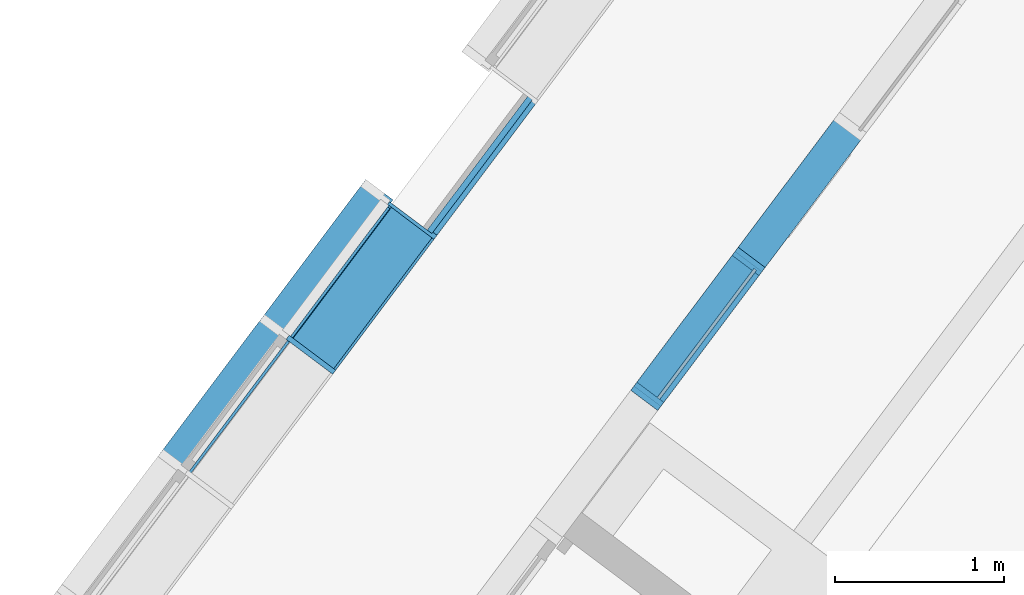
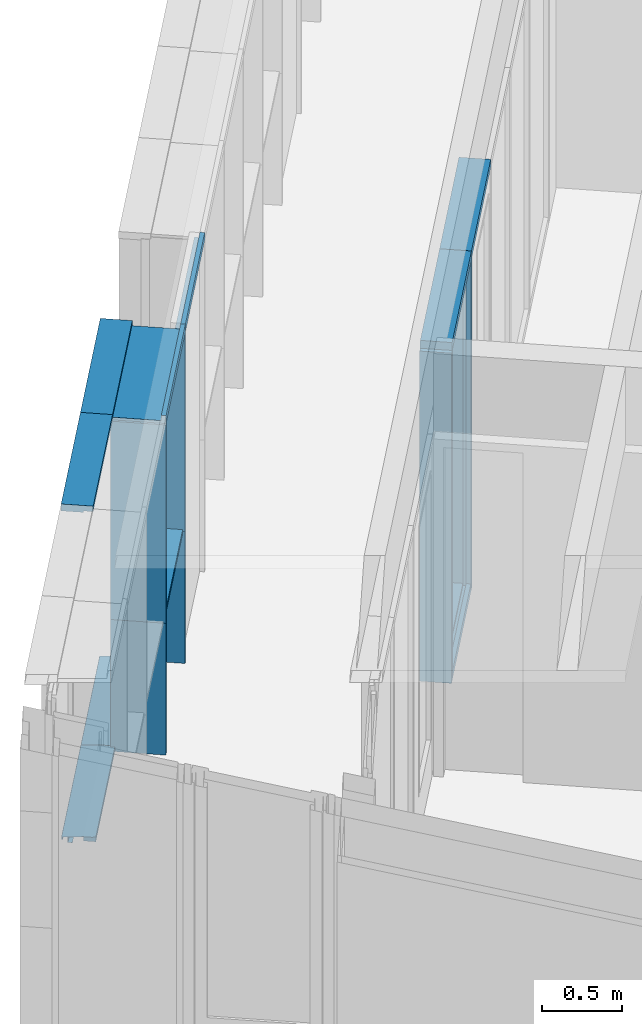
# One storey, part 38 of 243: 16 members, 3 elements without a shape of their own.
"""IFC2X3 building model written with IfcOpenShell, lengths in metres."""

from ifc_helpers import new_model, entity, si_unit, converted_unit, derived_unit, direction, frame, frame_2d, origin, place, context, subcontext, project, spatial, polyline, circle_curve, parameter, trimmed, segment, composite_curve, rectangle, outline, extrude, source, transform, mapped, material, type_object, type_shapes, element, aggregate, save


model = new_model("IFC2X3")

# Units and contexts
model_context = context("Model", 3, precision=1e-05, world=origin(), true_north=direction((6.123031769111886e-17, 1.0)))
body_context = subcontext(model_context, "Body", "Model", "MODEL_VIEW")
ifc_project = project(units=[si_unit("LENGTHUNIT", "METRE"), si_unit("AREAUNIT", "SQUARE_METRE"), si_unit("VOLUMEUNIT", "CUBIC_METRE"), converted_unit("PLANEANGLEUNIT", "DEGREE", entity("IfcRatioMeasure", 0.017453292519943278), si_unit("PLANEANGLEUNIT", "RADIAN"), dimensions=[0, 0, 0, 0, 0, 0, 0]), si_unit("MASSUNIT", "GRAM", prefix="KILO"), derived_unit("MASSDENSITYUNIT", [(si_unit("MASSUNIT", "GRAM", prefix="KILO"), 1), (si_unit("LENGTHUNIT", "METRE"), -3)]), derived_unit("IONCONCENTRATIONUNIT", [(si_unit("MASSUNIT", "GRAM", prefix="KILO"), 1), (si_unit("LENGTHUNIT", "METRE"), -3)]), derived_unit("MOMENTOFINERTIAUNIT", [(si_unit("LENGTHUNIT", "METRE"), 4)]), si_unit("TIMEUNIT", "SECOND"), si_unit("FREQUENCYUNIT", "HERTZ"), si_unit("THERMODYNAMICTEMPERATUREUNIT", "DEGREE_CELSIUS"), derived_unit("THERMALTRANSMITTANCEUNIT", [(si_unit("MASSUNIT", "GRAM", prefix="KILO"), 1), (si_unit("THERMODYNAMICTEMPERATUREUNIT", "KELVIN"), -1), (si_unit("TIMEUNIT", "SECOND"), -3)]), derived_unit("THERMALCONDUCTANCEUNIT", [(si_unit("MASSUNIT", "GRAM", prefix="KILO"), 1), (si_unit("THERMODYNAMICTEMPERATUREUNIT", "KELVIN"), -1), (si_unit("TIMEUNIT", "SECOND"), -3), (si_unit("LENGTHUNIT", "METRE"), 1)]), derived_unit("VOLUMETRICFLOWRATEUNIT", [(si_unit("LENGTHUNIT", "METRE"), 3), (si_unit("TIMEUNIT", "SECOND"), -1)]), derived_unit("MASSFLOWRATEUNIT", [(si_unit("MASSUNIT", "GRAM", prefix="KILO"), 1), (si_unit("TIMEUNIT", "SECOND"), -1)]), derived_unit("ROTATIONALFREQUENCYUNIT", [(si_unit("TIMEUNIT", "SECOND"), -1)]), si_unit("ELECTRICCURRENTUNIT", "AMPERE"), si_unit("ELECTRICVOLTAGEUNIT", "VOLT"), si_unit("POWERUNIT", "WATT"), si_unit("FORCEUNIT", "NEWTON", prefix="KILO"), si_unit("ILLUMINANCEUNIT", "LUX"), si_unit("LUMINOUSFLUXUNIT", "LUMEN"), si_unit("LUMINOUSINTENSITYUNIT", "CANDELA"), derived_unit("USERDEFINED", [(si_unit("MASSUNIT", "GRAM", prefix="KILO"), -1), (si_unit("LENGTHUNIT", "METRE"), -2), (si_unit("TIMEUNIT", "SECOND"), 3), (si_unit("LUMINOUSFLUXUNIT", "LUMEN"), 1)]), derived_unit("USERDEFINED", [(si_unit("MASSUNIT", "GRAM", prefix="KILO"), 1), (si_unit("TIMEUNIT", "SECOND"), -3), (si_unit("LENGTHUNIT", "METRE"), 3), (si_unit("ELECTRICCURRENTUNIT", "AMPERE"), -2)]), derived_unit("SOUNDPOWERUNIT", [(si_unit("MASSUNIT", "GRAM", prefix="KILO"), 1), (si_unit("TIMEUNIT", "SECOND"), -3), (si_unit("LENGTHUNIT", "METRE"), 2)]), derived_unit("SOUNDPRESSUREUNIT", [(si_unit("MASSUNIT", "GRAM", prefix="KILO"), 1), (si_unit("LENGTHUNIT", "METRE"), -1), (si_unit("TIMEUNIT", "SECOND"), -2)]), derived_unit("LINEARVELOCITYUNIT", [(si_unit("LENGTHUNIT", "METRE"), 1), (si_unit("TIMEUNIT", "SECOND"), -1)]), si_unit("PRESSUREUNIT", "PASCAL"), derived_unit("USERDEFINED", [(si_unit("MASSUNIT", "GRAM", prefix="KILO"), 1), (si_unit("LENGTHUNIT", "METRE"), -2), (si_unit("TIMEUNIT", "SECOND"), -2)]), derived_unit("LINEARFORCEUNIT", [(si_unit("MASSUNIT", "GRAM", prefix="KILO"), 1), (si_unit("TIMEUNIT", "SECOND"), -2)]), derived_unit("PLANARFORCEUNIT", [(si_unit("MASSUNIT", "GRAM", prefix="KILO"), 1), (si_unit("LENGTHUNIT", "METRE"), -1), (si_unit("TIMEUNIT", "SECOND"), -2)]), derived_unit("SPECIFICHEATCAPACITYUNIT", [(si_unit("THERMODYNAMICTEMPERATUREUNIT", "KELVIN"), -1), (si_unit("LENGTHUNIT", "METRE"), 2), (si_unit("TIMEUNIT", "SECOND"), -2)]), derived_unit("HEATINGVALUEUNIT", [(si_unit("LENGTHUNIT", "METRE"), 2), (si_unit("TIMEUNIT", "SECOND"), -2)]), derived_unit("VAPORPERMEABILITYUNIT", [(si_unit("LENGTHUNIT", "METRE"), -1), (si_unit("TIMEUNIT", "SECOND"), 1)]), derived_unit("DYNAMICVISCOSITYUNIT", [(si_unit("MASSUNIT", "GRAM", prefix="KILO"), 1), (si_unit("TIMEUNIT", "SECOND"), -1), (si_unit("LENGTHUNIT", "METRE"), -1)]), derived_unit("THERMALEXPANSIONCOEFFICIENTUNIT", [(si_unit("THERMODYNAMICTEMPERATUREUNIT", "KELVIN"), -1)]), derived_unit("MODULUSOFELASTICITYUNIT", [(si_unit("MASSUNIT", "GRAM", prefix="KILO"), 1), (si_unit("LENGTHUNIT", "METRE"), -1), (si_unit("TIMEUNIT", "SECOND"), -2)]), derived_unit("ISOTHERMALMOISTURECAPACITYUNIT", [(si_unit("LENGTHUNIT", "METRE"), 3), (si_unit("MASSUNIT", "GRAM", prefix="KILO"), -1)]), derived_unit("MOISTUREDIFFUSIVITYUNIT", [(si_unit("TIMEUNIT", "SECOND"), -1), (si_unit("LENGTHUNIT", "METRE"), 2)])], contexts=[model_context])

# Site, building, storey
site_placement = place(None, frame((0.0, 0.0, 235.0), z_axis=(0.0, 0.0, 1.0), x_axis=(-0.7996477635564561, 0.6004693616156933, 0.0)))
site = spatial("IfcSite", under=ifc_project, at=site_placement, Name="Default", CompositionType="ELEMENT")
building_placement = place(site_placement, origin())
building = spatial("IfcBuilding", under=site, at=building_placement, CompositionType="ELEMENT")
storey_placement = place(building_placement, origin())
storey = spatial("IfcBuildingStorey", under=building, at=storey_placement, Name="P0- Escola", CompositionType="ELEMENT", Elevation=0.0)

# Curtain wall, members
curtain_wall_type_1 = type_object("IfcCurtainWallType", Name="Muro cortina:MC- INT- a1", PredefinedType="NOTDEFINED")
curtain_wall_1_placement = place(storey_placement, origin())
curtain_wall_1 = element("IfcCurtainWall", 1, at=curtain_wall_1_placement, inside=storey, type_object=curtain_wall_type_1, Name="Muro cortina:MC- INT- a1", ObjectType="Muro cortina:MC- INT- a1")
ifc_material_1 = material(Name="_Fusta massisa- T1")
member_type_1 = type_object("IfcMemberType", Name="Montante rectangular:MC- Fusta- 20x6 cm- Esquerra", PredefinedType="MULLION", material=ifc_material_1)
shared_shape_1 = source(origin(), body_context, "Body", "SweptSolid", [
    extrude(outline(polyline([(-0.07000000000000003, -0.01875000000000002), (-0.04000000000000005, -0.01875000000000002), (-0.04000000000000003, -0.0037500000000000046), (-0.020000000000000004, -0.0037500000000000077), (-0.02, -0.018750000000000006), (0.13, -0.018749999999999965), (0.12999999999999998, 0.04125000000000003), (-0.06999999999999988, 0.04124999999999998), (-0.07000000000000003, -0.01875000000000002)])), frame((-0.041249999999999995, -0.03, -1.0), z_axis=(0.0, 0.0, 1.0), x_axis=(0.0, -1.0, 0.0)), (0.0, 0.0, 1.0), 0.9999999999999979),
])
type_shapes(member_type_1, [shared_shape_1])
member_1_placement = place(curtain_wall_1_placement, frame((72.720147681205, -26.415189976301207, 2.565), z_axis=(0.0, -1.0, 0.0), x_axis=(0.0, 0.0, 1.0)))
member_1 = element("IfcMember", 2, at=member_1_placement, type_object=member_type_1, material=ifc_material_1, Name="Montante rectangular:MC- Fusta- 20x6 cm- Esquerra", ObjectType="Montante rectangular:MC- Fusta- 20x6 cm- Esquerra", context=body_context, shape_type="MappedRepresentation", body=[
    mapped(shared_shape_1, transform((0.0, 0.0, 0.0), scale=1.0)),
])
member_type_2 = type_object("IfcMemberType", Name="Montante rectangular:MC- Fusta- 20x6 cm- Esquerra", PredefinedType="MULLION", material=ifc_material_1)
shared_shape_2 = source(origin(), body_context, "Body", "SweptSolid", [
    extrude(outline(polyline([(-0.07000000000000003, -0.01875000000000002), (-0.04000000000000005, -0.01875000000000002), (-0.04000000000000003, -0.0037500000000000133), (-0.020000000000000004, -0.0037500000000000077), (-0.02, -0.018750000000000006), (0.13, -0.018749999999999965), (0.12999999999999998, 0.04125000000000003), (-0.06999999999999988, 0.04124999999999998), (-0.07000000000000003, -0.01875000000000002)])), frame((-0.01124999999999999, -0.03, -2.5050000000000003), z_axis=(0.0, 0.0, 1.0), x_axis=(0.0, -1.0, 0.0)), (0.0, 0.0, 1.0), 2.5050000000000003),
])
type_shapes(member_type_2, [shared_shape_2])
member_2_placement = place(curtain_wall_1_placement, frame((72.720147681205, -25.41518997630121, 0.0), z_axis=(0.0, 0.0, -1.0), x_axis=(0.0, -1.0, 0.0)))
member_2 = element("IfcMember", 3, at=member_2_placement, type_object=member_type_2, material=ifc_material_1, Name="Montante rectangular:MC- Fusta- 20x6 cm- Esquerra", ObjectType="Montante rectangular:MC- Fusta- 20x6 cm- Esquerra", context=body_context, shape_type="MappedRepresentation", body=[
    mapped(shared_shape_2, transform((0.0, 0.0, 0.0), scale=1.0)),
])
member_type_3 = type_object("IfcMemberType", Name="Montante rectangular:MC- Fusta- 20x6 cm- Neutre", PredefinedType="MULLION", material=ifc_material_1)
shared_shape_3 = source(origin(), body_context, "Body", "SweptSolid", [
    extrude(rectangle(XDim=0.2, YDim=0.060000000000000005, at=frame_2d((-4.85722573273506e-17, -3.469446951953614e-18), x_axis=(1.0, 0.0))), frame((-0.03, -0.060000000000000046, -1.0), z_axis=(0.0, 0.0, 1.0), x_axis=(0.0, -1.0, 0.0)), (0.0, 0.0, 1.0), 0.9999999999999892),
])
type_shapes(member_type_3, [shared_shape_3])
member_3_placement = place(curtain_wall_1_placement, frame((72.720147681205, -25.41518997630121, 2.565), z_axis=(0.0, -1.0, 0.0), x_axis=(0.0, 0.0, 1.0)))
member_3 = element("IfcMember", 4, at=member_3_placement, type_object=member_type_3, material=ifc_material_1, Name="Montante rectangular:MC- Fusta- 20x6 cm- Neutre", ObjectType="Montante rectangular:MC- Fusta- 20x6 cm- Neutre", context=body_context, shape_type="MappedRepresentation", body=[
    mapped(shared_shape_3, transform((0.0, 0.0, 0.0), scale=1.0)),
])
member_type_4 = type_object("IfcMemberType", Name="Montante rectangular:MC- Fusta- 20x6 cm- Neutre", PredefinedType="MULLION", material=ifc_material_1)
shared_shape_4 = source(origin(), body_context, "Body", "SweptSolid", [
    extrude(rectangle(XDim=0.2, YDim=0.06, at=frame_2d((-4.85722573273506e-17, 0.0), x_axis=(1.0, 0.0))), frame((0.0, -0.060000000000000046, -2.5050000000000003), z_axis=(0.0, 0.0, 1.0), x_axis=(0.0, -1.0, 0.0)), (0.0, 0.0, 1.0), 2.5050000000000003),
])
type_shapes(member_type_4, [shared_shape_4])
member_4_placement = place(curtain_wall_1_placement, frame((72.720147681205, -24.41518997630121, 0.0), z_axis=(0.0, 0.0, -1.0), x_axis=(0.0, -1.0, 0.0)))
member_4 = element("IfcMember", 5, at=member_4_placement, type_object=member_type_4, material=ifc_material_1, Name="Montante rectangular:MC- Fusta- 20x6 cm- Neutre", ObjectType="Montante rectangular:MC- Fusta- 20x6 cm- Neutre", context=body_context, shape_type="MappedRepresentation", body=[
    mapped(shared_shape_4, transform((0.0, 0.0, 0.0), scale=1.0)),
])
member_type_5 = type_object("IfcMemberType", Name="Montante rectangular:MC- Fusta- 20x6 cm- Inferior", PredefinedType="MULLION", material=ifc_material_1)
shared_shape_5 = source(origin(), body_context, "Body", "SweptSolid", [
    extrude(outline(polyline([(-0.06999999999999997, -0.018750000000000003), (-0.039999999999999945, -0.018750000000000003), (-0.03999999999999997, -0.003750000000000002), (-0.019999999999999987, -0.0037500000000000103), (-0.019999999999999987, -0.018750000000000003), (0.13000000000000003, -0.018750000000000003), (0.13000000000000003, 0.041249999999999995), (-0.07000000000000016, 0.041249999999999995), (-0.06999999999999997, -0.018750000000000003)])), frame((-0.041249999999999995, -0.02999999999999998, -0.9399999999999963), z_axis=(0.0, 0.0, 1.0), x_axis=(0.0, -1.0, 0.0)), (0.0, 0.0, 1.0), 0.9399999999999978),
])
type_shapes(member_type_5, [shared_shape_5])
member_5_placement = place(curtain_wall_1_placement, frame((72.720147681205, -24.44518997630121, 0.0), z_axis=(0.0, 1.0, 0.0), x_axis=(0.0, 0.0, -1.0)))
member_5 = element("IfcMember", 6, at=member_5_placement, type_object=member_type_5, material=ifc_material_1, Name="Montante rectangular:MC- Fusta- 20x6 cm- Inferior", ObjectType="Montante rectangular:MC- Fusta- 20x6 cm- Inferior", context=body_context, shape_type="MappedRepresentation", body=[
    mapped(shared_shape_5, transform((0.0, 0.0, 0.0), scale=1.0)),
])
aggregate(curtain_wall_1, [member_1, member_3, member_2, member_4, member_5])

curtain_wall_type_2 = type_object("IfcCurtainWallType", Name="Muro cortina:MC- INT- k2", PredefinedType="NOTDEFINED")
curtain_wall_2_placement = place(storey_placement, origin())
curtain_wall_2 = element("IfcCurtainWall", 7, at=curtain_wall_2_placement, inside=storey, type_object=curtain_wall_type_2, Name="Muro cortina:MC- INT- k2", ObjectType="Muro cortina:MC- INT- k2")
member_type_6 = type_object("IfcMemberType", Name="Montante rectangular:MC- Fusta- 35x3 cm- Centre", PredefinedType="MULLION", material=ifc_material_1)
shared_shape_6 = source(origin(), body_context, "Body", "SweptSolid", [
    extrude(rectangle(XDim=0.3450000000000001, YDim=0.030000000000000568, at=frame_2d((0.0, -1.3964523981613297e-16), x_axis=(1.0, 0.0))), frame((0.0, -0.07750000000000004, -1.0), z_axis=(0.0, 0.0, 1.0), x_axis=(0.0, -1.0, 0.0)), (0.0, 0.0, 1.0), 1.0),
])
type_shapes(member_type_6, [shared_shape_6])
member_6_placement = place(curtain_wall_2_placement, frame((74.445147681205, -23.415191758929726, 0.0), z_axis=(0.0, 0.0, -1.0), x_axis=(0.0, -1.0, 0.0)))
member_6 = element("IfcMember", 8, at=member_6_placement, type_object=member_type_6, material=ifc_material_1, Name="Montante rectangular:MC- Fusta- 35x3 cm- Centre", ObjectType="Montante rectangular:MC- Fusta- 35x3 cm- Centre", context=body_context, shape_type="MappedRepresentation", body=[
    mapped(shared_shape_6, transform((0.0, 0.0, 0.0), scale=1.0)),
])
member_type_7 = type_object("IfcMemberType", Name="Montante rectangular:MC- Fusta- 35x3 cm- Pati aules- Remat superior", PredefinedType="MULLION", material=ifc_material_1)
shared_shape_7 = source(origin(), body_context, "Body", "SweptSolid", [
    extrude(outline(polyline([(-0.12166666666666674, -0.02666666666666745), (0.21333333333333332, -0.02666666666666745), (0.2133333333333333, -0.006666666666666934), (-0.09166666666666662, -0.006666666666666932), (-0.09166666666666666, 0.03333333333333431), (-0.12166666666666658, 0.03333333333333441), (-0.12166666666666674, -0.02666666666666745)])), frame((-0.033333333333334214, -0.026666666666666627, -1.0), z_axis=(0.0, 0.0, 1.0), x_axis=(0.0, -1.0, 0.0)), (0.0, 0.0, 1.0), 0.9999999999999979),
])
type_shapes(member_type_7, [shared_shape_7])
member_7_placement = place(curtain_wall_2_placement, frame((74.445147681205, -24.415191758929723, 2.565), z_axis=(0.0, -1.0, 0.0), x_axis=(0.0, 0.0, 1.0)))
member_7 = element("IfcMember", 9, at=member_7_placement, type_object=member_type_7, material=ifc_material_1, Name="Montante rectangular:MC- Fusta- 35x3 cm- Pati aules- Remat superior", ObjectType="Montante rectangular:MC- Fusta- 35x3 cm- Pati aules- Remat superior", context=body_context, shape_type="MappedRepresentation", body=[
    mapped(shared_shape_7, transform((0.0, 0.0, 0.0), scale=1.0)),
])
member_type_8 = type_object("IfcMemberType", Name="Montante rectangular:MC- Fusta- 35x3 cm- Pati aules- Remat dreta", PredefinedType="MULLION", material=ifc_material_1)
shared_shape_8 = source(origin(), body_context, "Body", "SweptSolid", [
    extrude(outline(polyline([(-0.12500000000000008, -0.01666666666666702), (0.22, -0.01666666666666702), (0.22000000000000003, 0.003333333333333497), (-0.09499999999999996, 0.003333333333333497), (-0.09499999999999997, 0.013333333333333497), (-0.12500000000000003, 0.013333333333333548), (-0.12500000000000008, -0.01666666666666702)])), frame((0.00166666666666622, -0.03000000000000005, -1.0), z_axis=(0.0, 0.0, 1.0), x_axis=(0.0, -1.0, 0.0)), (0.0, 0.0, 1.0), 1.0),
])
type_shapes(member_type_8, [shared_shape_8])
member_8_placement = place(curtain_wall_2_placement, frame((74.445147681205, -24.415191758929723, 0.0), z_axis=(0.0, 0.0, -1.0), x_axis=(0.0, -1.0, 0.0)))
member_8 = element("IfcMember", 10, at=member_8_placement, type_object=member_type_8, material=ifc_material_1, Name="Montante rectangular:MC- Fusta- 35x3 cm- Pati aules- Remat dreta", ObjectType="Montante rectangular:MC- Fusta- 35x3 cm- Pati aules- Remat dreta", context=body_context, shape_type="MappedRepresentation", body=[
    mapped(shared_shape_8, transform((0.0, 0.0, 0.0), scale=1.0)),
])
member_type_9 = type_object("IfcMemberType", Name="Montante rectangular:MC- Fusta- 35x3 cm- Pati aules- Remat superior pilar", PredefinedType="MULLION", material=ifc_material_1)
shared_shape_9 = source(origin(), body_context, "Body", "SweptSolid", [
    extrude(outline(polyline([(-0.03166666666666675, -0.02666666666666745), (0.03333333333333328, -0.02666666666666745), (0.03333333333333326, -0.00666666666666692), (-0.0016666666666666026, -0.006666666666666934), (-0.0016666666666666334, 0.03333333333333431), (-0.03166666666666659, 0.03333333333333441), (-0.03166666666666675, -0.02666666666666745)])), frame((-0.03333333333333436, 0.06333333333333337, -1.0), z_axis=(0.0, 0.0, 1.0), x_axis=(0.0, -1.0, 0.0)), (0.0, 0.0, 1.0), 0.9999999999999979),
])
type_shapes(member_type_9, [shared_shape_9])
member_9_placement = place(curtain_wall_2_placement, frame((74.44514768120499, -25.415191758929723, 2.565), z_axis=(0.0, -1.0, 0.0), x_axis=(0.0, 0.0, 1.0)))
member_9 = element("IfcMember", 11, at=member_9_placement, type_object=member_type_9, material=ifc_material_1, Name="Montante rectangular:MC- Fusta- 35x3 cm- Pati aules- Remat superior pilar", ObjectType="Montante rectangular:MC- Fusta- 35x3 cm- Pati aules- Remat superior pilar", context=body_context, shape_type="MappedRepresentation", body=[
    mapped(shared_shape_9, transform((0.0, 0.0, 0.0), scale=1.0)),
])
member_type_10 = type_object("IfcMemberType", Name="Montante rectangular:MC- Fusta- 35x3 cm- Pati aules- Prestatge", PredefinedType="MULLION", material=ifc_material_1)
shared_shape_10 = source(origin(), body_context, "Body", "SweptSolid", [
    extrude(rectangle(XDim=0.30000000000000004, YDim=0.03000000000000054, at=frame_2d((0.0, -1.231653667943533e-16), x_axis=(1.0, 0.0))), frame((0.0, -0.07000000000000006, -0.9699999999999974), z_axis=(0.0, 0.0, 1.0), x_axis=(0.0, -1.0, 0.0)), (0.0, 0.0, 1.0), 0.969999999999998),
])
type_shapes(member_type_10, [shared_shape_10])
member_10_placement = place(curtain_wall_2_placement, frame((74.445147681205, -24.400191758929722, 1.0), z_axis=(0.0, -1.0, 0.0), x_axis=(0.0, 0.0, 1.0)))
member_10 = element("IfcMember", 12, at=member_10_placement, type_object=member_type_10, material=ifc_material_1, Name="Montante rectangular:MC- Fusta- 35x3 cm- Pati aules- Prestatge", ObjectType="Montante rectangular:MC- Fusta- 35x3 cm- Pati aules- Prestatge", context=body_context, shape_type="MappedRepresentation", body=[
    mapped(shared_shape_10, transform((0.0, 0.0, 0.0), scale=1.0)),
])
member_type_11 = type_object("IfcMemberType", Name="Montante rectangular:MC- Fusta- 35x3 cm- Centre", PredefinedType="MULLION", material=ifc_material_1)
shared_shape_11 = source(origin(), body_context, "Body", "SweptSolid", [
    extrude(rectangle(XDim=0.3450000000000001, YDim=0.030000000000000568, at=frame_2d((0.0, -1.3964523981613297e-16), x_axis=(1.0, 0.0))), frame((0.0, -0.07750000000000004, -1.504999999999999), z_axis=(0.0, 0.0, 1.0), x_axis=(0.0, -1.0, 0.0)), (0.0, 0.0, 1.0), 1.504999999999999),
])
type_shapes(member_type_11, [shared_shape_11])
member_11_placement = place(curtain_wall_2_placement, frame((74.445147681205, -23.415191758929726, 1.0), z_axis=(0.0, 0.0, -1.0), x_axis=(0.0, -1.0, 0.0)))
member_11 = element("IfcMember", 13, at=member_11_placement, type_object=member_type_11, material=ifc_material_1, Name="Montante rectangular:MC- Fusta- 35x3 cm- Centre", ObjectType="Montante rectangular:MC- Fusta- 35x3 cm- Centre", context=body_context, shape_type="MappedRepresentation", body=[
    mapped(shared_shape_11, transform((0.0, 0.0, 0.0), scale=1.0)),
])
member_type_12 = type_object("IfcMemberType", Name="Montante rectangular:MC- Fusta- 35x3 cm- Pati aules- Remat dreta", PredefinedType="MULLION", material=ifc_material_1)
shared_shape_12 = source(origin(), body_context, "Body", "SweptSolid", [
    extrude(outline(polyline([(-0.12500000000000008, -0.01666666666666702), (0.22, -0.01666666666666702), (0.22000000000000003, 0.003333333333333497), (-0.09499999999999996, 0.003333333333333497), (-0.09499999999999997, 0.013333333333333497), (-0.12500000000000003, 0.013333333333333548), (-0.12500000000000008, -0.01666666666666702)])), frame((0.00166666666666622, -0.03000000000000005, -1.504999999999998), z_axis=(0.0, 0.0, 1.0), x_axis=(0.0, -1.0, 0.0)), (0.0, 0.0, 1.0), 1.504999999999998),
])
type_shapes(member_type_12, [shared_shape_12])
member_12_placement = place(curtain_wall_2_placement, frame((74.445147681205, -24.415191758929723, 1.0), z_axis=(0.0, 0.0, -1.0), x_axis=(0.0, -1.0, 0.0)))
member_12 = element("IfcMember", 14, at=member_12_placement, type_object=member_type_12, material=ifc_material_1, Name="Montante rectangular:MC- Fusta- 35x3 cm- Pati aules- Remat dreta", ObjectType="Montante rectangular:MC- Fusta- 35x3 cm- Pati aules- Remat dreta", context=body_context, shape_type="MappedRepresentation", body=[
    mapped(shared_shape_12, transform((0.0, 0.0, 0.0), scale=1.0)),
])
aggregate(curtain_wall_2, [member_6, member_7, member_8, member_9, member_10, member_11, member_12])

curtain_wall_type_3 = type_object("IfcCurtainWallType", Name="Muro cortina:MC- EXT- MC5", PredefinedType="NOTDEFINED")
curtain_wall_3_placement = place(storey_placement, origin())
curtain_wall_3 = element("IfcCurtainWall", 15, at=curtain_wall_3_placement, inside=storey, type_object=curtain_wall_type_3, Name="Muro cortina:MC- EXT- MC5", ObjectType="Muro cortina:MC- EXT- MC5")
ifc_material_2 = material(Name="_Alumini- T1- Perfil")
member_type_13 = type_object("IfcMemberType", Name="Montante rectangular:MC- Alu- 140x52,5 cm- Fa patis- Superior", PredefinedType="MULLION", material=ifc_material_2)
shared_shape_13 = source(origin(), body_context, "Body", "SweptSolid", [
    extrude(outline(polyline([(-0.026333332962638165, -0.021249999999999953), (0.11366666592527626, -0.021249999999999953), (0.11366666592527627, 0.031250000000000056), (-0.08733333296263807, 0.03125000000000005), (-0.0873333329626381, -0.010000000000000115), (-0.026333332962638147, -0.010000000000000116), (-0.026333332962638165, -0.021249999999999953)])), frame((-0.031250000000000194, -0.02733333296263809, -1.0), z_axis=(0.0, 0.0, 1.0), x_axis=(0.0, -1.0, 0.0)), (0.0, 0.0, 1.0), 1.0000000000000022),
])
type_shapes(member_type_13, [shared_shape_13])
member_13_placement = place(curtain_wall_3_placement, frame((74.7451476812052, -23.415191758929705, 2.545), z_axis=(0.0, -1.0, 0.0), x_axis=(0.0, 0.0, 1.0)))
member_13 = element("IfcMember", 16, at=member_13_placement, type_object=member_type_13, material=ifc_material_2, Name="Montante rectangular:MC- Alu- 140x52,5 cm- Fa patis- Superior", ObjectType="Montante rectangular:MC- Alu- 140x52,5 cm- Fa patis- Superior", context=body_context, shape_type="MappedRepresentation", body=[
    mapped(shared_shape_13, transform((0.0, 0.0, 0.0), scale=1.0)),
])
member_type_14 = type_object("IfcMemberType", Name="Montante rectangular:MC- Alu- 140x52,5 cm- Fa patis- inferior", PredefinedType="MULLION", material=ifc_material_2)
shared_shape_14 = source(origin(), body_context, "Body", "SweptSolid", [
    extrude(outline(composite_curve([segment(polyline([(-0.144167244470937, -0.02586710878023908), (-0.12786724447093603, -0.025867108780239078)]), True, "CONTINUOUS"), segment(polyline([(-0.12786724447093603, -0.025867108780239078), (-0.12786724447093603, -0.023167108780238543)]), True, "CONTINUOUS"), segment(polyline([(-0.12786724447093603, -0.023167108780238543), (-0.0678672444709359, -0.023167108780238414)]), True, "CONTINUOUS"), segment(polyline([(-0.0678672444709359, -0.023167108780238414), (0.07031215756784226, -0.01072210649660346)]), True, "CONTINUOUS"), segment(trimmed(circle_curve(frame_2d((0.07013275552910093, -0.00873016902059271), x_axis=(0.0897010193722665, -0.9959687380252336)), 0.0019999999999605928), [parameter(0.0)], [parameter(84.85359280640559)], True, "PARAMETER"), True, "CONTINUOUS"), segment(polyline([(0.07213275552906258, -0.008730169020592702), (0.07213275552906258, 0.006266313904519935)]), True, "CONTINUOUS"), segment(trimmed(circle_curve(frame_2d((0.070132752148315, 0.0062663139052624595), x_axis=(1.0, 0.0)), 0.0020000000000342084), [parameter(0.0)], [parameter(90.00000002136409)], True, "PARAMETER"), True, "CONTINUOUS"), segment(polyline([(0.070132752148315, 0.008266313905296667), (0.06213275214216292, 0.008266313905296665)]), True, "CONTINUOUS"), segment(polyline([(0.06213275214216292, 0.008266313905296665), (0.06213275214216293, 0.006266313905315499)]), True, "CONTINUOUS"), segment(polyline([(0.06213275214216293, 0.006266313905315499), (0.06963275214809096, 0.006266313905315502)]), True, "CONTINUOUS"), segment(trimmed(circle_curve(frame_2d((0.06963275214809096, 0.005766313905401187), x_axis=(0.0, 1.0)), 0.000499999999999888), [parameter(269.9999999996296)], [parameter(0.0)], True, "PARAMETER"), False, "CONTINUOUS"), segment(polyline([(0.07013275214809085, 0.005766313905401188), (0.07013275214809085, -0.0087301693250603)]), True, "CONTINUOUS"), segment(polyline([(0.07013275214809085, -0.0087301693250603), (0.03213275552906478, -0.01215260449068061)]), True, "CONTINUOUS"), segment(polyline([(0.03213275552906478, -0.012152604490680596), (0.03213275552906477, 0.02913289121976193)]), True, "CONTINUOUS"), segment(polyline([(0.03213275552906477, 0.02913289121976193), (0.0021327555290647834, 0.029132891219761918)]), True, "CONTINUOUS"), segment(polyline([(0.0021327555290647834, 0.029132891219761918), (0.0021327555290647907, 0.027132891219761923)]), True, "CONTINUOUS"), segment(polyline([(0.0021327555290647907, 0.027132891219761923), (0.03013275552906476, 0.027132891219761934)]), True, "CONTINUOUS"), segment(polyline([(0.03013275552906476, 0.027132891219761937), (0.03013275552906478, -0.012332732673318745)]), True, "CONTINUOUS"), segment(polyline([(0.03013275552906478, -0.012332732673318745), (-0.06786724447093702, -0.02115901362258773)]), True, "CONTINUOUS"), segment(polyline([(-0.06786724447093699, -0.021159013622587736), (-0.067867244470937, 0.009132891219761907)]), True, "CONTINUOUS"), segment(polyline([(-0.06786724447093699, 0.009132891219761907), (-0.14416724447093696, 0.00913289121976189)]), True, "CONTINUOUS"), segment(polyline([(-0.14416724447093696, 0.00913289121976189), (-0.144167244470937, -0.02586710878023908)]), True, "CONTINUOUS")], self_intersect=False)), frame((-0.02913289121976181, -0.06786724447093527, -1.0), z_axis=(0.0, 0.0, 1.0), x_axis=(0.0, -1.0, 0.0)), (0.0, 0.0, 1.0), 0.9999999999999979),
])
type_shapes(member_type_14, [shared_shape_14])
member_14_placement = place(curtain_wall_3_placement, frame((74.7451476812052, -22.415191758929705, -0.02), z_axis=(0.0, 1.0, 0.0), x_axis=(0.0, 0.0, -1.0)))
member_14 = element("IfcMember", 17, at=member_14_placement, type_object=member_type_14, material=ifc_material_2, Name="Montante rectangular:MC- Alu- 140x52,5 cm- Fa patis- inferior", ObjectType="Montante rectangular:MC- Alu- 140x52,5 cm- Fa patis- inferior", context=body_context, shape_type="MappedRepresentation", body=[
    mapped(shared_shape_14, transform((0.0, 0.0, 0.0), scale=1.0)),
])
member_type_15 = type_object("IfcMemberType", Name="Montante rectangular:MC- Alu- 140x52,5 cm- Fa patis- inferior", PredefinedType="MULLION", material=ifc_material_2)
shared_shape_15 = source(origin(), body_context, "Body", "SweptSolid", [
    extrude(outline(composite_curve([segment(polyline([(-0.144167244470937, -0.025867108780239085), (-0.12786724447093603, -0.02586710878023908)]), True, "CONTINUOUS"), segment(polyline([(-0.12786724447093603, -0.02586710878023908), (-0.12786724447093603, -0.023167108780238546)]), True, "CONTINUOUS"), segment(polyline([(-0.12786724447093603, -0.023167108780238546), (-0.0678672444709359, -0.023167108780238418)]), True, "CONTINUOUS"), segment(polyline([(-0.0678672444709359, -0.023167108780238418), (0.07031215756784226, -0.010722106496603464)]), True, "CONTINUOUS"), segment(trimmed(circle_curve(frame_2d((0.07013275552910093, -0.008730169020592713), x_axis=(0.0897010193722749, -0.9959687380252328)), 0.0019999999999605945), [parameter(0.0)], [parameter(84.8535928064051)], True, "PARAMETER"), True, "CONTINUOUS"), segment(polyline([(0.07213275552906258, -0.008730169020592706), (0.07213275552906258, 0.006266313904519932)]), True, "CONTINUOUS"), segment(trimmed(circle_curve(frame_2d((0.07013275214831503, 0.006266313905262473), x_axis=(1.0, 0.0)), 0.0020000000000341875), [parameter(0.0)], [parameter(90.00000002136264)], True, "PARAMETER"), True, "CONTINUOUS"), segment(polyline([(0.070132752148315, 0.008266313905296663), (0.06213275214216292, 0.008266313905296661)]), True, "CONTINUOUS"), segment(polyline([(0.06213275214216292, 0.008266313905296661), (0.06213275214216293, 0.006266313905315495)]), True, "CONTINUOUS"), segment(polyline([(0.06213275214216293, 0.006266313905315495), (0.06963275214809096, 0.006266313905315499)]), True, "CONTINUOUS"), segment(trimmed(circle_curve(frame_2d((0.06963275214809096, 0.005766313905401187), x_axis=(0.0, 1.0)), 0.0004999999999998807), [parameter(269.9999999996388)], [parameter(0.0)], True, "PARAMETER"), False, "CONTINUOUS"), segment(polyline([(0.07013275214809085, 0.005766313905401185), (0.07013275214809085, -0.008730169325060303)]), True, "CONTINUOUS"), segment(polyline([(0.07013275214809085, -0.008730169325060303), (0.03213275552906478, -0.012152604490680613)]), True, "CONTINUOUS"), segment(polyline([(0.03213275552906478, -0.0121526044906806), (0.03213275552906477, 0.029132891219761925)]), True, "CONTINUOUS"), segment(polyline([(0.03213275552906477, 0.029132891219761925), (0.0021327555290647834, 0.029132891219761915)]), True, "CONTINUOUS"), segment(polyline([(0.0021327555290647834, 0.029132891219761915), (0.0021327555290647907, 0.02713289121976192)]), True, "CONTINUOUS"), segment(polyline([(0.0021327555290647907, 0.02713289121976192), (0.03013275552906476, 0.02713289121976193)]), True, "CONTINUOUS"), segment(polyline([(0.03013275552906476, 0.027132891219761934), (0.03013275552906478, -0.012332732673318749)]), True, "CONTINUOUS"), segment(polyline([(0.03013275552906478, -0.012332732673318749), (-0.06786724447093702, -0.021159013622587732)]), True, "CONTINUOUS"), segment(polyline([(-0.06786724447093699, -0.02115901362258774), (-0.067867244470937, 0.009132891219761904)]), True, "CONTINUOUS"), segment(polyline([(-0.06786724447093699, 0.009132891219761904), (-0.14416724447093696, 0.009132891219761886)]), True, "CONTINUOUS"), segment(polyline([(-0.14416724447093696, 0.009132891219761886), (-0.144167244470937, -0.025867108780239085)]), True, "CONTINUOUS")], self_intersect=False)), frame((-0.029132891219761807, -0.06786724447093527, -0.9737499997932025), z_axis=(0.0, 0.0, 1.0), x_axis=(0.0, -1.0, 0.0)), (0.0, 0.0, 1.0), 0.9737499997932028),
])
type_shapes(member_type_15, [shared_shape_15])
member_15_placement = place(curtain_wall_3_placement, frame((74.7451476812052, -23.415191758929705, -0.02), z_axis=(0.0, 1.0, 0.0), x_axis=(0.0, 0.0, -1.0)))
member_15 = element("IfcMember", 18, at=member_15_placement, type_object=member_type_15, material=ifc_material_2, Name="Montante rectangular:MC- Alu- 140x52,5 cm- Fa patis- inferior", ObjectType="Montante rectangular:MC- Alu- 140x52,5 cm- Fa patis- inferior", context=body_context, shape_type="MappedRepresentation", body=[
    mapped(shared_shape_15, transform((0.0, 0.0, 0.0), scale=1.0)),
])
member_type_16 = type_object("IfcMemberType", Name="Montante rectangular:MC- Alu- 140x52,5 cm- Fa patis- Superior", PredefinedType="MULLION", material=ifc_material_2)
shared_shape_16 = source(origin(), body_context, "Body", "SweptSolid", [
    extrude(outline(polyline([(-0.026333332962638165, -0.021249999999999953), (0.11366666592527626, -0.021249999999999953), (0.11366666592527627, 0.031250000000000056), (-0.08733333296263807, 0.03125000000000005), (-0.0873333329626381, -0.010000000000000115), (-0.026333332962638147, -0.010000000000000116), (-0.026333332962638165, -0.021249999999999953)])), frame((-0.031250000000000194, -0.02733333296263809, -1.0262500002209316), z_axis=(0.0, 0.0, 1.0), x_axis=(0.0, -1.0, 0.0)), (0.0, 0.0, 1.0), 1.0262500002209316),
])
type_shapes(member_type_16, [shared_shape_16])
member_16_placement = place(curtain_wall_3_placement, frame((74.7451476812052, -24.441441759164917, 2.545), z_axis=(0.0, -1.0, 0.0), x_axis=(0.0, 0.0, 1.0)))
member_16 = element("IfcMember", 19, at=member_16_placement, type_object=member_type_16, material=ifc_material_2, Name="Montante rectangular:MC- Alu- 140x52,5 cm- Fa patis- Superior", ObjectType="Montante rectangular:MC- Alu- 140x52,5 cm- Fa patis- Superior", context=body_context, shape_type="MappedRepresentation", body=[
    mapped(shared_shape_16, transform((0.0, 0.0, 0.0), scale=1.0)),
])
aggregate(curtain_wall_3, [member_14, member_13, member_15, member_16])

save(model, "model.ifc")
